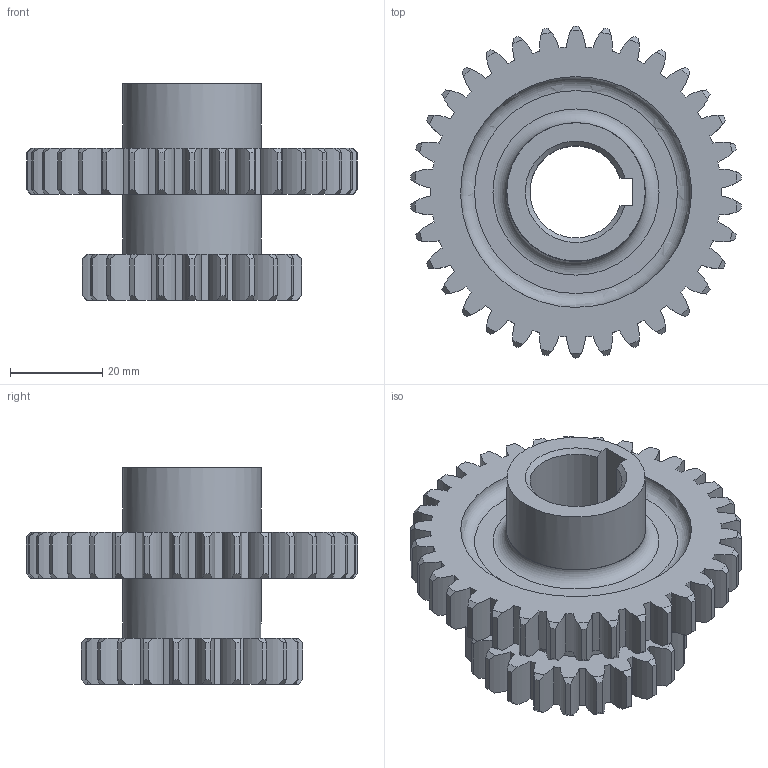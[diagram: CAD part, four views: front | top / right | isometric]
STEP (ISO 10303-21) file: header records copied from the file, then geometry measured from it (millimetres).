
FILE_DESCRIPTION(/* description */ (''),/* implementation_level */ '2;1');
FILE_NAME(/* name */ 'C:\Users\user\Desktop\381017E1012\381017E1012-스퍼기어.stp',/* time_stamp */ '2018-10-11T15:50:10+09:00',/* author */ ('user'),/* organization */ (''),/* preprocessor_version */ 'ST-DEVELOPER v16.1',/* originating_system */ 'Autodesk Inventor 2016',/* authorisation */ '');
FILE_SCHEMA (('AUTOMOTIVE_DESIGN { 1 0 10303 214 3 1 1 }'));
Length unit declared in the file: millimetre
Products named in the file (1): 381017E1012-스퍼어기어
Bounding box: 71.79 x 72 x 47 mm (x, y, z)
Volume: 47866.3 mm3; surface area: 21450.5 mm2
Topology: 1 solids, 1 shells, 357 faces, 1048 edges, 696 vertices
Faces by surface type: cylinder 227, cone 116, plane 10, torus 4
Full cylindrical faces by diameter (mm): 30 x2
Entity records: 12612 total; most frequent: CARTESIAN_POINT 3030, DIRECTION 2094, ORIENTED_EDGE 2076, EDGE_CURVE 1038, AXIS2_PLACEMENT_3D 930, VERTEX_POINT 694, CIRCLE 572, EDGE_LOOP 370
